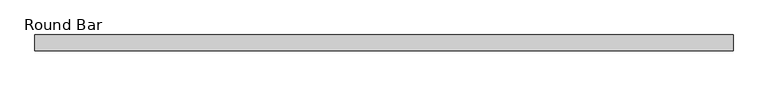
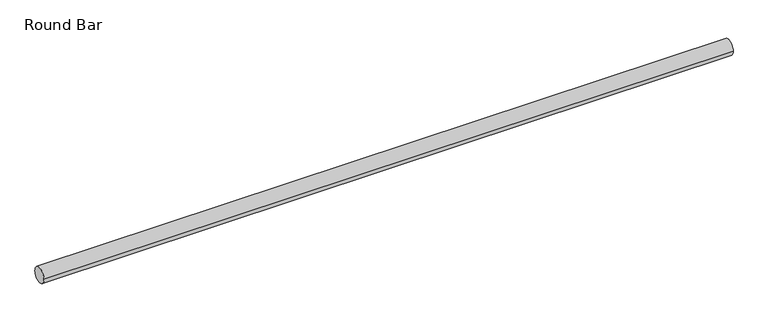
"""IFC4 building model written with IfcOpenShell, lengths in millimetres: beam geometry, Round Bar : Ispuna resetke."""

from ifc_helpers import new_model, si_unit, point, frame, origin, origin_2d, place, context, project, spatial, circle_curve, trimmed, segment, composite_curve, outline, extrude, source, transform, mapped, element, save


def round_bar_8cfec21f(model_context):
    return source(origin(), model_context, "Body", "SweptSolid", [
        extrude(outline(composite_curve([segment(trimmed(circle_curve(origin_2d(), 100.0), [point((-100.0, 0.0))], [point((100.0, 0.0))], False, "CARTESIAN"), True, "CONTINUOUS"), segment(trimmed(circle_curve(origin_2d(), 100.0), [point((100.0, 0.0))], [point((-100.0, 0.0))], False, "CARTESIAN"), True, "CONTINUOUS")], self_intersect=False)), frame((-5044.0, 0.0, 0.0), z_axis=(1.0, 0.0, 0.0), x_axis=(0.0, 1.0, 0.0)), (0.0, 0.0, 1.0), 8813.0),
    ])


if __name__ == "__main__":
    model = new_model("IFC4")
    model_context = context("Model", 3, world=origin())
    ifc_project = project(units=[si_unit("LENGTHUNIT", "METRE", prefix="MILLI")], contexts=[model_context])
    site = spatial("IfcSite", under=ifc_project)
    building = spatial("IfcBuilding", under=site)
    placement = place(None, origin())
    round_bar_shape = round_bar_8cfec21f(model_context)
    element("IfcBeam", 1, ObjectType="Round Bar : Ispuna resetke", at=placement, inside=building, context=model_context, shape_type="MappedRepresentation", body=[
        mapped(round_bar_shape, transform((0.0, 0.0, 0.0), x_axis=(1.0, 0.0, 0.0), y_axis=(0.0, 1.0, 0.0), z_axis=(0.0, 0.0, 1.0))),
    ])
    save(model, "model.ifc")
